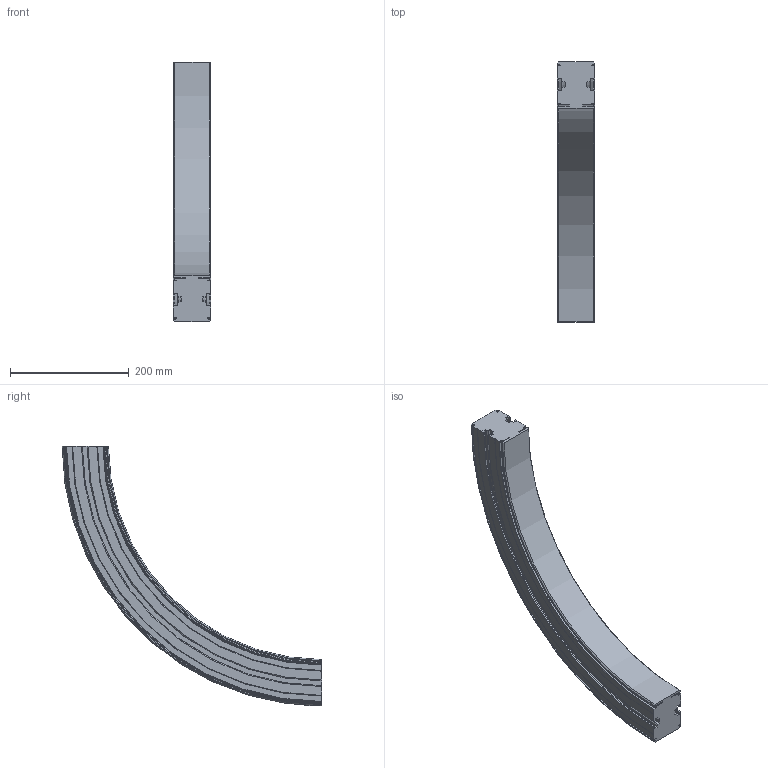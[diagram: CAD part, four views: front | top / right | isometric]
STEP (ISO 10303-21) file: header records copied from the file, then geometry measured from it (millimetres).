
FILE_DESCRIPTION(/* description */ ('VERTIKALKURVA S620 R400'),/* implementation_level */ '2;1');
FILE_NAME(/* name */ '\\carryline.intra\privat\users\mathias\Desktop\Tillfälliga filer\620-5645+620-2000-NER-01.stp',/* time_stamp */ '2018-12-05T16:00:36+01:00',/* author */ ('MD'),/* organization */ ('CARRYLINE'),/* preprocessor_version */ 'ST-DEVELOPER v17',/* originating_system */ 'Autodesk Inventor 2018',/* authorisation */ '');
FILE_SCHEMA (('AUTOMOTIVE_DESIGN { 1 0 10303 214 3 1 1 }'));
Length unit declared in the file: millimetre
Products named in the file (1): 620-5645+620-2000-NER-01
Bounding box: 64 x 438 x 438 mm (x, y, z)
Volume: 2801803 mm3; surface area: 306707.1 mm2
Topology: 1 solids, 1 shells, 149 faces, 426 edges, 284 vertices
Faces by surface type: plane 54, cylinder 37, torus 28, cone 16, bspline 14
Entity records: 9542 total; most frequent: CARTESIAN_POINT 5522, ORIENTED_EDGE 852, DIRECTION 836, EDGE_CURVE 426, AXIS2_PLACEMENT_3D 315, VERTEX_POINT 284, LINE 206, VECTOR 206
